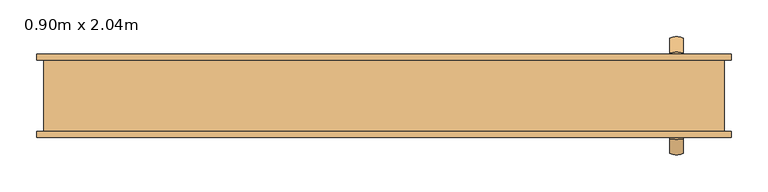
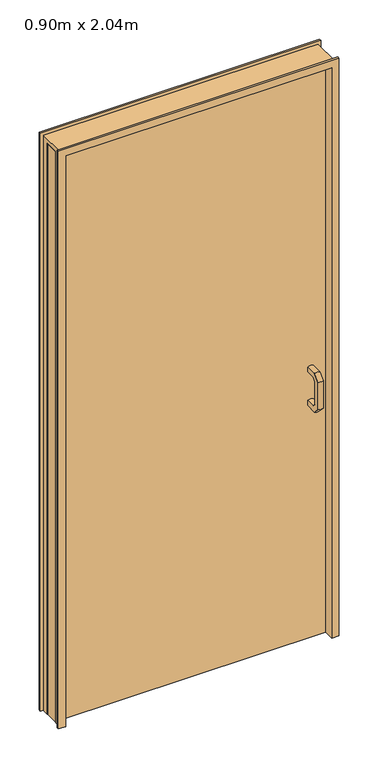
"""IFC4 building model written with IfcOpenShell, lengths in millimetres: door geometry, Coulissante - Encastrée : 0.90m x 2.04m."""

from ifc_helpers import new_model, si_unit, frame, origin, origin_with_axes, place, context, project, spatial, polyline, circle_curve, ellipse_curve, outline, extrude, faceted_brep, source, transform, mapped, element, save
from ifc_brep_helpers import plane_surface, cylinder_surface, advanced_brep


def door_0_90m_x_2_04m_119cc7aa(model_context):
    return source(origin(), model_context, "Body", "SolidModel", [
        advanced_brep(
        [(381.9951137, 32.9026087, 951.0), (399.9951137, 32.9026087, 951.0), (399.9951137, 32.9026087, 969.0), (381.9951137, 32.9026087, 969.0), (381.9951137, 71.6305307, 969.0), (381.9951137, 91.9026087, 948.7279221), (381.9951137, 91.9026087, 851.2720779), (381.9951137, 71.6305307, 831.0), (381.9951137, 32.9026087, 831.0), (381.9951137, 32.9026087, 849.0), (381.9951137, 64.1746866, 849.0), (381.9951137, 73.9026087, 858.7279221), (381.9951137, 73.9026087, 941.2720779), (381.9951137, 64.1746866, 951.0), (399.9951137, 71.6305307, 969.0), (399.9951137, 64.1746866, 951.0), (399.9951137, 73.9026087, 941.2720779), (399.9951137, 73.9026087, 858.7279221), (399.9951137, 64.1746866, 849.0), (399.9951137, 32.9026087, 849.0), (399.9951137, 32.9026087, 831.0), (399.9951137, 71.6305307, 831.0), (399.9951137, 91.9026087, 851.2720779), (399.9951137, 91.9026087, 948.7279221)],
        [
            (0, 1, circle_curve(frame((390.9951137, 32.9026087, 967.8242505), z_axis=(0.0, -1.0, 0.0), x_axis=(0.0, 0.0, -1.0)), 19.0802359)),
            (1, 2),
            (2, 3, circle_curve(frame((390.9951137, 32.9026087, 952.1757495), z_axis=(0.0, -1.0, 0.0), x_axis=(0.0, 0.0, -1.0)), 19.0802359)),
            (3, 0),
            (3, 4),
            (4, 5),
            (5, 6),
            (6, 7),
            (7, 8),
            (8, 9),
            (9, 10),
            (10, 11),
            (11, 12),
            (12, 13),
            (13, 0),
            (2, 14),
            (14, 4, ellipse_curve(frame((390.9951137, 64.661698, 952.1757495), z_axis=(0.0, -0.9238795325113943, 0.3826834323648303), x_axis=(0.0, -0.38268343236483, -0.9238795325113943)), 20.6522986, 19.0802359)),
            (1, 15),
            (15, 16),
            (16, 17),
            (17, 18),
            (18, 19),
            (19, 20),
            (20, 21),
            (21, 22),
            (22, 23),
            (23, 14),
            (13, 15, ellipse_curve(frame((390.9951137, 71.1435193, 967.8242505), z_axis=(0.0, -0.9238795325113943, 0.3826834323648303), x_axis=(0.0, -0.38268343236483, -0.9238795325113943)), 20.6522986, 19.0802359)),
            (23, 5, ellipse_curve(frame((390.9951137, 75.0783582, 941.7590893), z_axis=(0.0, -0.38268343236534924, 0.9238795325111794), x_axis=(0.0, -0.9238795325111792, -0.3826834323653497)), 20.6522986, 19.0802359)),
            (12, 16, ellipse_curve(frame((390.9951137, 90.7268591, 948.2409107), z_axis=(0.0, -0.38268343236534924, 0.9238795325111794), x_axis=(0.0, -0.9238795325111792, -0.3826834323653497)), 20.6522986, 19.0802359)),
            (22, 6, ellipse_curve(frame((390.9951137, 75.0783582, 858.2409107), z_axis=(0.0, 0.38268343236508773, 0.9238795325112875), x_axis=(0.0, -0.9238795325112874, 0.38268343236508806)), 20.6522986, 19.0802359)),
            (11, 17, ellipse_curve(frame((390.9951137, 90.7268591, 851.7590893), z_axis=(0.0, 0.38268343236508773, 0.9238795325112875), x_axis=(0.0, -0.9238795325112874, 0.38268343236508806)), 20.6522986, 19.0802359)),
            (21, 7, ellipse_curve(frame((390.9951137, 64.661698, 847.8242505), z_axis=(0.0, 0.9238795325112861, 0.3826834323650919), x_axis=(0.0, -0.3826834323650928, 0.9238795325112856)), 20.6522986, 19.0802359)),
            (10, 18, ellipse_curve(frame((390.9951137, 71.1435193, 832.1757495), z_axis=(0.0, 0.9238795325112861, 0.3826834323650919), x_axis=(0.0, -0.3826834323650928, 0.9238795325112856)), 20.6522986, 19.0802359)),
            (8, 20, circle_curve(frame((390.9951137, 32.9026087, 847.8242505), z_axis=(0.0, -1.0, 0.0), x_axis=(0.0, 0.0, 1.0)), 19.0802359)),
            (19, 9, circle_curve(frame((390.9951137, 32.9026087, 832.1757495), z_axis=(0.0, -1.0, 0.0), x_axis=(0.0, 0.0, 1.0)), 19.0802359)),
        ],
        [
            plane_surface(frame((403.7230357, 32.9026087, 960.0), z_axis=(0.0, -1.0, 0.0), x_axis=(0.0, 0.0, 1.0))),
            plane_surface(frame((381.9951137, 32.9026087, 951.0), z_axis=(-1.0, 0.0, 0.0), x_axis=(0.0, 1.0, 0.0))),
            cylinder_surface(frame((390.9951137, 32.9026087, 952.1757495), z_axis=(0.0, -1.0, 0.0), x_axis=(0.0, 0.0, -1.0)), 19.0802359),
            plane_surface(frame((399.9951137, 32.9026087, 969.0), z_axis=(1.0, 0.0, 0.0), x_axis=(0.0, 1.0, 0.0))),
            cylinder_surface(frame((390.9951137, 32.9026087, 967.8242505), z_axis=(0.0, -1.0, 0.0), x_axis=(0.0, 0.0, -1.0)), 19.0802359),
            cylinder_surface(frame((390.9951137, 62.3700281, 954.4674194), z_axis=(0.0, -0.7071067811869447, 0.7071067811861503), x_axis=(0.0, -0.7071067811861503, -0.7071067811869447)), 19.0802359),
            cylinder_surface(frame((390.9951137, 73.4351892, 965.5325806), z_axis=(0.0, -0.7071067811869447, 0.7071067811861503), x_axis=(0.0, -0.7071067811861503, -0.7071067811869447)), 19.0802359),
            cylinder_surface(frame((390.9951137, 75.0783582, 945.0), z_axis=(0.0, 0.0, 1.0), x_axis=(0.0, -1.0, 0.0)), 19.0802359),
            cylinder_surface(frame((390.9951137, 90.7268591, 945.0), z_axis=(0.0, 0.0, 1.0), x_axis=(0.0, -1.0, 0.0)), 19.0802359),
            cylinder_surface(frame((390.9951137, 77.3700281, 860.5325806), z_axis=(0.0, 0.7071067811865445, 0.7071067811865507), x_axis=(0.0, -0.7071067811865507, 0.7071067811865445)), 19.0802359),
            cylinder_surface(frame((390.9951137, 88.4351892, 849.4674194), z_axis=(0.0, 0.7071067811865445, 0.7071067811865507), x_axis=(0.0, -0.7071067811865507, 0.7071067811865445)), 19.0802359),
            plane_surface(frame((403.7230357, 32.9026087, 840.0), z_axis=(0.0, -1.0, 0.0), x_axis=(0.0, 0.0, -1.0))),
            cylinder_surface(frame((390.9951137, 67.9026087, 847.8242505), z_axis=(0.0, 1.0, 0.0), x_axis=(0.0, 0.0, 1.0)), 19.0802359),
            cylinder_surface(frame((390.9951137, 67.9026087, 832.1757495), z_axis=(0.0, 1.0, 0.0), x_axis=(0.0, 0.0, 1.0)), 19.0802359),
        ],
        [
            (0, [[1, 2, 3, 4]]),
            (1, [[5, 6, 7, 8, 9, 10, 11, 12, 13, 14, 15, -4]]),
            (2, [[16, 17, -5, -3]]),
            (3, [[18, 19, 20, 21, 22, 23, 24, 25, 26, 27, -16, -2]]),
            (4, [[-15, 28, -18, -1]]),
            (5, [[-27, 29, -6, -17]]),
            (6, [[-14, 30, -19, -28]]),
            (7, [[-26, 31, -7, -29]]),
            (8, [[-13, 32, -20, -30]]),
            (9, [[-25, 33, -8, -31]]),
            (10, [[-12, 34, -21, -32]]),
            (11, [[-10, 35, -23, 36]]),
            (12, [[-24, -35, -9, -33]]),
            (13, [[-11, -36, -22, -34]]),
        ],
    ),
        advanced_brep(
        [(399.9951137, -7.0973913, 969.0), (399.9951137, -7.0973913, 951.0), (381.9951137, -7.0973913, 951.0), (381.9951137, -7.0973913, 969.0), (381.9951137, -45.8253134, 969.0), (399.9951137, -45.8253134, 969.0), (381.9951137, -38.3694693, 951.0), (381.9951137, -48.0973913, 941.2720779), (381.9951137, -48.0973913, 858.7279221), (381.9951137, -38.3694693, 849.0), (381.9951137, -7.0973913, 849.0), (381.9951137, -7.0973913, 831.0), (381.9951137, -45.8253134, 831.0), (381.9951137, -66.0973913, 851.2720779), (381.9951137, -66.0973913, 948.7279221), (399.9951137, -38.3694693, 951.0), (399.9951137, -66.0973913, 948.7279221), (399.9951137, -66.0973913, 851.2720779), (399.9951137, -45.8253134, 831.0), (399.9951137, -7.0973913, 831.0), (399.9951137, -7.0973913, 849.0), (399.9951137, -38.3694693, 849.0), (399.9951137, -48.0973913, 858.7279221), (399.9951137, -48.0973913, 941.2720779)],
        [
            (0, 1),
            (1, 2, circle_curve(frame((390.9951137, -7.0973913, 967.8242505), z_axis=(0.0, 1.0, 0.0), x_axis=(0.0, 0.0, 1.0)), 19.0802359)),
            (2, 3),
            (3, 0, circle_curve(frame((390.9951137, -7.0973913, 952.1757495), z_axis=(0.0, 1.0, 0.0), x_axis=(0.0, 0.0, 1.0)), 19.0802359)),
            (3, 4),
            (4, 5, ellipse_curve(frame((390.9951137, -38.8564807, 952.1757495), z_axis=(0.0, 0.9238795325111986, 0.38268343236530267), x_axis=(0.0, 0.38268343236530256, -0.9238795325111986)), 20.6522986, 19.0802359)),
            (5, 0),
            (2, 6),
            (6, 7),
            (7, 8),
            (8, 9),
            (9, 10),
            (10, 11),
            (11, 12),
            (12, 13),
            (13, 14),
            (14, 4),
            (1, 15),
            (15, 6, ellipse_curve(frame((390.9951137, -45.338302, 967.8242505), z_axis=(0.0, 0.9238795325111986, 0.38268343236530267), x_axis=(0.0, 0.38268343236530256, -0.9238795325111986)), 20.6522986, 19.0802359)),
            (5, 16),
            (16, 17),
            (17, 18),
            (18, 19),
            (19, 20),
            (20, 21),
            (21, 22),
            (22, 23),
            (23, 15),
            (14, 16, ellipse_curve(frame((390.9951137, -49.2731409, 941.7590893), z_axis=(0.0, 0.38268343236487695, 0.923879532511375), x_axis=(0.0, 0.9238795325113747, -0.3826834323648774)), 20.6522986, 19.0802359)),
            (23, 7, ellipse_curve(frame((390.9951137, -64.9216418, 948.2409107), z_axis=(0.0, 0.38268343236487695, 0.923879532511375), x_axis=(0.0, 0.9238795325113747, -0.3826834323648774)), 20.6522986, 19.0802359)),
            (13, 17, ellipse_curve(frame((390.9951137, -49.2731409, 858.2409107), z_axis=(0.0, -0.38268343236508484, 0.9238795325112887), x_axis=(0.0, 0.9238795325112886, 0.3826834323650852)), 20.6522986, 19.0802359)),
            (22, 8, ellipse_curve(frame((390.9951137, -64.9216418, 851.7590893), z_axis=(0.0, -0.38268343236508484, 0.9238795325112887), x_axis=(0.0, 0.9238795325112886, 0.3826834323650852)), 20.6522986, 19.0802359)),
            (12, 18, ellipse_curve(frame((390.9951137, -38.8564807, 847.8242505), z_axis=(0.0, -0.9238795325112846, 0.38268343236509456), x_axis=(0.0, 0.38268343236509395, 0.9238795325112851)), 20.6522986, 19.0802359)),
            (21, 9, ellipse_curve(frame((390.9951137, -45.338302, 832.1757495), z_axis=(0.0, -0.9238795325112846, 0.38268343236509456), x_axis=(0.0, 0.38268343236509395, 0.9238795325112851)), 20.6522986, 19.0802359)),
            (19, 11, circle_curve(frame((390.9951137, -7.0973913, 847.8242505), z_axis=(0.0, 1.0, 0.0), x_axis=(0.0, 0.0, -1.0)), 19.0802359)),
            (10, 20, circle_curve(frame((390.9951137, -7.0973913, 832.1757495), z_axis=(0.0, 1.0, 0.0), x_axis=(0.0, 0.0, -1.0)), 19.0802359)),
        ],
        [
            plane_surface(frame((403.7230357, -7.0973913, 960.0), z_axis=(0.0, 1.0, 0.0), x_axis=(0.0, 0.0, -1.0))),
            cylinder_surface(frame((390.9951137, -7.0973913, 952.1757495), z_axis=(0.0, 1.0, 0.0), x_axis=(0.0, 0.0, 1.0)), 19.0802359),
            plane_surface(frame((381.9951137, -7.0973913, 969.0), z_axis=(-1.0, 0.0, 0.0), x_axis=(0.0, -1.0, 0.0))),
            cylinder_surface(frame((390.9951137, -7.0973913, 967.8242505), z_axis=(0.0, 1.0, 0.0), x_axis=(0.0, 0.0, 1.0)), 19.0802359),
            plane_surface(frame((399.9951137, -7.0973913, 951.0), z_axis=(1.0, 0.0, 0.0), x_axis=(0.0, -1.0, 0.0))),
            cylinder_surface(frame((390.9951137, -36.5648108, 954.4674194), z_axis=(0.0, 0.7071067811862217, 0.7071067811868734), x_axis=(0.0, -0.7071067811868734, 0.7071067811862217)), 19.0802359),
            cylinder_surface(frame((390.9951137, -47.6299719, 965.5325806), z_axis=(0.0, 0.7071067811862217, 0.7071067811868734), x_axis=(0.0, -0.7071067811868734, 0.7071067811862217)), 19.0802359),
            cylinder_surface(frame((390.9951137, -49.2731409, 945.0), z_axis=(0.0, 0.0, 1.0), x_axis=(0.0, -1.0, 0.0)), 19.0802359),
            cylinder_surface(frame((390.9951137, -64.9216418, 945.0), z_axis=(0.0, 0.0, 1.0), x_axis=(0.0, -1.0, 0.0)), 19.0802359),
            cylinder_surface(frame((390.9951137, -51.5648108, 860.5325806), z_axis=(0.0, -0.70710678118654, 0.707106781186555), x_axis=(0.0, -0.707106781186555, -0.70710678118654)), 19.0802359),
            cylinder_surface(frame((390.9951137, -62.6299719, 849.4674194), z_axis=(0.0, -0.70710678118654, 0.707106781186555), x_axis=(0.0, -0.707106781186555, -0.70710678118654)), 19.0802359),
            plane_surface(frame((403.7230357, -7.0973913, 840.0), z_axis=(0.0, 1.0, 0.0), x_axis=(0.0, 0.0, 1.0))),
            cylinder_surface(frame((390.9951137, -42.0973913, 847.8242505), z_axis=(0.0, -1.0, 0.0), x_axis=(0.0, 0.0, -1.0)), 19.0802359),
            cylinder_surface(frame((390.9951137, -42.0973913, 832.1757495), z_axis=(0.0, -1.0, 0.0), x_axis=(0.0, 0.0, -1.0)), 19.0802359),
        ],
        [
            (0, [[1, 2, 3, 4]]),
            (1, [[5, 6, 7, -4]]),
            (2, [[8, 9, 10, 11, 12, 13, 14, 15, 16, 17, -5, -3]]),
            (3, [[18, 19, -8, -2]]),
            (4, [[-7, 20, 21, 22, 23, 24, 25, 26, 27, 28, -18, -1]]),
            (5, [[-17, 29, -20, -6]]),
            (6, [[-28, 30, -9, -19]]),
            (7, [[-16, 31, -21, -29]]),
            (8, [[-27, 32, -10, -30]]),
            (9, [[-15, 33, -22, -31]]),
            (10, [[-26, 34, -11, -32]]),
            (11, [[35, -13, 36, -24]]),
            (12, [[-14, -35, -23, -33]]),
            (13, [[-25, -36, -12, -34]]),
        ],
    ),
        extrude(outline(polyline([(440.9951137, -7.0973913), (-474.0048863, -7.0973913), (-474.0048863, 32.9026087), (440.9951137, 32.9026087), (440.9951137, -7.0973913)])), origin_with_axes(), (0.0, 0.0, 1.0), 2040.0),
        faceted_brep([(-474.0048863, 61.9026087, 0.0), (-484.0048863, 61.9026087, 0.0), (-484.0048863, 69.9026087, 0.0), (-459.0048863, 69.9026087, 0.0), (-459.0048863, 37.9026087, 0.0), (-474.0048863, 37.9026087, 0.0), (-459.0048863, -44.0973913, 0.0), (-484.0048863, -44.0973913, 0.0), (-484.0048863, -36.0973913, 0.0), (-474.0048863, -36.0973913, 0.0), (-474.0048863, -12.0973913, 0.0), (-459.0048863, -12.0973913, 0.0), (-474.0048863, 61.9026087, 2055.0), (455.9951137, 61.9026087, 2055.0), (455.9951137, 61.9026087, 0.0), (465.9951137, 61.9026087, 0.0), (465.9951137, 61.9026087, 2065.0), (-484.0048863, 61.9026087, 2065.0), (-484.0048863, 69.9026087, 2065.0), (465.9951137, 69.9026087, 2065.0), (465.9951137, 69.9026087, 0.0), (440.9951137, 69.9026087, 0.0), (440.9951137, 69.9026087, 2040.0), (-459.0048863, 69.9026087, 2040.0), (-459.0048863, 37.9026087, 2040.0), (-459.0048863, -44.0973913, 2040.0), (-459.0048863, -12.0973913, 2040.0), (-474.0048863, 37.9026087, 2040.0), (-474.0048863, -36.0973913, 2055.0), (-474.0048863, -12.0973913, 2040.0), (440.9951137, -44.0973913, 2040.0), (440.9951137, -44.0973913, 0.0), (465.9951137, -44.0973913, 0.0), (465.9951137, -44.0973913, 2065.0), (-484.0048863, -44.0973913, 2065.0), (-484.0048863, -36.0973913, 2065.0), (465.9951137, -36.0973913, 2065.0), (465.9951137, -36.0973913, 0.0), (455.9951137, -36.0973913, 0.0), (455.9951137, -36.0973913, 2055.0)], [[[0, 1, 2, 3, 4, 5]], [[6, 7, 8, 9, 10, 11]], [[1, 0, 12, 13, 14, 15, 16, 17]], [[2, 1, 17, 18]], [[3, 2, 18, 19, 20, 21, 22, 23]], [[3, 23, 24, 4]], [[25, 6, 11, 26]], [[24, 27, 5, 4]], [[9, 28, 12, 0, 5, 27, 29, 10]], [[7, 6, 25, 30, 31, 32, 33, 34]], [[8, 7, 34, 35]], [[9, 8, 35, 36, 37, 38, 39, 28]], [[29, 26, 11, 10]], [[14, 13, 39, 38]], [[15, 14, 38, 37, 32, 31, 21, 20]], [[16, 15, 20, 19]], [[22, 21, 31, 30]], [[33, 32, 37, 36]], [[12, 28, 39, 13]], [[17, 16, 19, 18]], [[23, 22, 30, 25, 26, 29, 27, 24]], [[34, 33, 36, 35]]]),
    ])


if __name__ == "__main__":
    model = new_model("IFC4")
    model_context = context("Model", 3, world=origin())
    ifc_project = project(units=[si_unit("LENGTHUNIT", "METRE", prefix="MILLI")], contexts=[model_context])
    site = spatial("IfcSite", under=ifc_project)
    building = spatial("IfcBuilding", under=site)
    placement = place(None, origin())
    door_0_90m_x_2_04m_shape = door_0_90m_x_2_04m_119cc7aa(model_context)
    element("IfcDoor", 1, ObjectType="Coulissante - Encastrée : 0.90m x 2.04m", at=placement, inside=building, context=model_context, shape_type="MappedRepresentation", body=[
        mapped(door_0_90m_x_2_04m_shape, transform((0.0, 0.0, 0.0), x_axis=(1.0, 0.0, 0.0), y_axis=(0.0, 1.0, 0.0), z_axis=(0.0, 0.0, 1.0))),
    ])
    save(model, "model.ifc")
